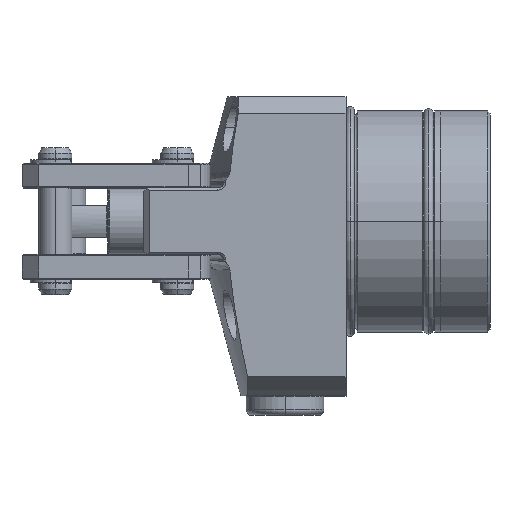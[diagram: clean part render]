
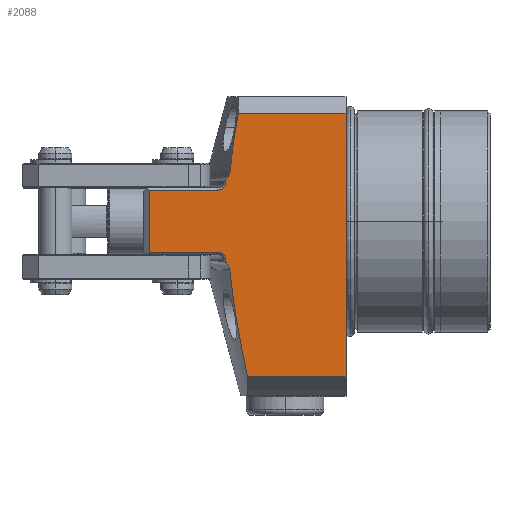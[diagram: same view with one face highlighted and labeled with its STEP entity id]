
A CAD part, top view. The second image highlights one B-rep face of the part: STEP entity #2088.
In plain terms, the highlighted planar face has unit normal (0, 0, 1).
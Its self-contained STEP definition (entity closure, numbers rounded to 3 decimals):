
#1366=B_SPLINE_CURVE_WITH_KNOTS('',3,(#10925,#10926,#10927,#10928,#10929,
#10930,#10931,#10932,#10933,#10934),.UNSPECIFIED.,.F.,.F.,(4,3,3,4),(0.,
0.418,0.837,1.),.UNSPECIFIED.);
#1367=B_SPLINE_CURVE_WITH_KNOTS('',3,(#10939,#10940,#10941,#10942,#10943,
#10944,#10945,#10946,#10947,#10948,#10949,#10950,#10951,#10952,#10953,#10954,
#10955,#10956),.UNSPECIFIED.,.F.,.F.,(4,2,2,2,2,2,2,2,4),(0.,0.125,0.25,
0.375,0.5,0.625,0.75,0.875,1.),.UNSPECIFIED.);
#1368=B_SPLINE_CURVE_WITH_KNOTS('',3,(#10961,#10962,#10963,#10964,#10965,
#10966,#10967,#10968,#10969,#10970,#10971,#10972,#10973,#10974,#10975,#10976,
#10977,#10978),.UNSPECIFIED.,.F.,.F.,(4,2,2,2,2,2,2,2,4),(0.,0.125,0.25,
0.375,0.5,0.625,0.75,0.875,1.),.UNSPECIFIED.);
#1369=B_SPLINE_CURVE_WITH_KNOTS('',3,(#10982,#10983,#10984,#10985,#10986,
#10987,#10988,#10989,#10990,#10991),.UNSPECIFIED.,.F.,.F.,(4,3,3,4),(0.,
0.41,0.819,1.),.UNSPECIFIED.);
#1370=B_SPLINE_CURVE_WITH_KNOTS('',3,(#10993,#10994,#10995,#10996),
 .UNSPECIFIED.,.F.,.F.,(4,4),(0.,1.),.UNSPECIFIED.);
#1371=B_SPLINE_CURVE_WITH_KNOTS('',3,(#11004,#11005,#11006,#11007),
 .UNSPECIFIED.,.F.,.F.,(4,4),(0.,1.),.UNSPECIFIED.);
#1788=PLANE('',#7421);
#2088=ADVANCED_FACE('',(#2534),#1788,.F.);
#2534=FACE_OUTER_BOUND('',#2895,.T.);
#2895=EDGE_LOOP('',(#4737,#4738,#4739,#4740,#4741,#4742,#4743,#4744,#4745,
#4746,#4747,#4748,#4749,#4750));
#3265=LINE('',#10912,#3562);
#3272=LINE('',#10937,#3569);
#3273=LINE('',#10958,#3570);
#3274=LINE('',#10959,#3571);
#3275=LINE('',#10980,#3572);
#3276=LINE('',#10998,#3573);
#3277=LINE('',#11000,#3574);
#3278=LINE('',#11002,#3575);
#3562=VECTOR('',#9077,1.);
#3569=VECTOR('',#9088,1.);
#3570=VECTOR('',#9089,1.);
#3571=VECTOR('',#9090,1.);
#3572=VECTOR('',#9091,1.);
#3573=VECTOR('',#9092,1.);
#3574=VECTOR('',#9093,1.);
#3575=VECTOR('',#9094,1.);
#4737=ORIENTED_EDGE('',*,*,#6247,.F.);
#4738=ORIENTED_EDGE('',*,*,#6248,.T.);
#4739=ORIENTED_EDGE('',*,*,#6249,.T.);
#4740=ORIENTED_EDGE('',*,*,#6250,.T.);
#4741=ORIENTED_EDGE('',*,*,#6240,.T.);
#4742=ORIENTED_EDGE('',*,*,#6251,.T.);
#4743=ORIENTED_EDGE('',*,*,#6252,.T.);
#4744=ORIENTED_EDGE('',*,*,#6253,.T.);
#4745=ORIENTED_EDGE('',*,*,#6254,.F.);
#4746=ORIENTED_EDGE('',*,*,#6255,.F.);
#4747=ORIENTED_EDGE('',*,*,#6256,.F.);
#4748=ORIENTED_EDGE('',*,*,#6257,.F.);
#4749=ORIENTED_EDGE('',*,*,#6258,.T.);
#4750=ORIENTED_EDGE('',*,*,#6259,.F.);
#5556=VERTEX_POINT('',#10911);
#5557=VERTEX_POINT('',#10913);
#5561=VERTEX_POINT('',#10935);
#5562=VERTEX_POINT('',#10936);
#5563=VERTEX_POINT('',#10938);
#5564=VERTEX_POINT('',#10957);
#5565=VERTEX_POINT('',#10960);
#5566=VERTEX_POINT('',#10979);
#5567=VERTEX_POINT('',#10981);
#5568=VERTEX_POINT('',#10992);
#5569=VERTEX_POINT('',#10997);
#5570=VERTEX_POINT('',#10999);
#5571=VERTEX_POINT('',#11001);
#5572=VERTEX_POINT('',#11003);
#6240=EDGE_CURVE('',#5557,#5556,#3265,.T.);
#6247=EDGE_CURVE('',#5561,#5562,#1366,.T.);
#6248=EDGE_CURVE('',#5561,#5563,#3272,.T.);
#6249=EDGE_CURVE('',#5563,#5564,#1367,.T.);
#6250=EDGE_CURVE('',#5564,#5557,#3273,.T.);
#6251=EDGE_CURVE('',#5556,#5565,#3274,.T.);
#6252=EDGE_CURVE('',#5565,#5566,#1368,.T.);
#6253=EDGE_CURVE('',#5566,#5567,#3275,.T.);
#6254=EDGE_CURVE('',#5568,#5567,#1369,.T.);
#6255=EDGE_CURVE('',#5569,#5568,#1370,.T.);
#6256=EDGE_CURVE('',#5570,#5569,#3276,.T.);
#6257=EDGE_CURVE('',#5571,#5570,#3277,.T.);
#6258=EDGE_CURVE('',#5571,#5572,#3278,.T.);
#6259=EDGE_CURVE('',#5562,#5572,#1371,.T.);
#7421=AXIS2_PLACEMENT_3D('',#11008,#9095,#9096);
#9077=DIRECTION('',(0.,-1.,0.));
#9088=DIRECTION('',(0.,-1.,0.));
#9089=DIRECTION('',(-1.,0.,0.));
#9090=DIRECTION('',(1.,0.,0.));
#9091=DIRECTION('',(0.,-1.,0.));
#9092=DIRECTION('',(-1.,0.,0.));
#9093=DIRECTION('',(0.,-1.,0.));
#9094=DIRECTION('',(-1.,0.,0.));
#9095=DIRECTION('',(0.,0.,-1.));
#9096=DIRECTION('',(0.,-1.,0.));
#10911=CARTESIAN_POINT('',(-35.5,-5.6,22.5));
#10912=CARTESIAN_POINT('',(-35.5,-7.,22.5));
#10913=CARTESIAN_POINT('',(-35.5,5.6,22.5));
#10925=CARTESIAN_POINT('',(-21.731,7.435,22.5));
#10926=CARTESIAN_POINT('',(-21.554,7.573,22.5));
#10927=CARTESIAN_POINT('',(-21.397,7.742,22.5));
#10928=CARTESIAN_POINT('',(-21.274,7.93,22.5));
#10929=CARTESIAN_POINT('',(-21.151,8.118,22.5));
#10930=CARTESIAN_POINT('',(-21.059,8.331,22.5));
#10931=CARTESIAN_POINT('',(-21.007,8.549,22.5));
#10932=CARTESIAN_POINT('',(-20.986,8.635,22.5));
#10933=CARTESIAN_POINT('',(-20.972,8.723,22.5));
#10934=CARTESIAN_POINT('',(-20.963,8.811,22.5));
#10935=CARTESIAN_POINT('',(-21.731,7.435,22.5));
#10936=CARTESIAN_POINT('',(-20.963,8.811,22.5));
#10937=CARTESIAN_POINT('',(-21.731,7.,22.5));
#10938=CARTESIAN_POINT('',(-21.731,7.,22.5));
#10939=CARTESIAN_POINT('',(-21.731,7.,22.5));
#10940=CARTESIAN_POINT('',(-21.731,6.908,22.5));
#10941=CARTESIAN_POINT('',(-21.741,6.817,22.5));
#10942=CARTESIAN_POINT('',(-21.778,6.637,22.5));
#10943=CARTESIAN_POINT('',(-21.805,6.549,22.5));
#10944=CARTESIAN_POINT('',(-21.878,6.38,22.5));
#10945=CARTESIAN_POINT('',(-21.923,6.298,22.5));
#10946=CARTESIAN_POINT('',(-22.028,6.146,22.5));
#10947=CARTESIAN_POINT('',(-22.089,6.075,22.5));
#10948=CARTESIAN_POINT('',(-22.223,5.945,22.5));
#10949=CARTESIAN_POINT('',(-22.297,5.887,22.5));
#10950=CARTESIAN_POINT('',(-22.454,5.785,22.5));
#10951=CARTESIAN_POINT('',(-22.538,5.742,22.5));
#10952=CARTESIAN_POINT('',(-22.714,5.672,22.5));
#10953=CARTESIAN_POINT('',(-22.805,5.645,22.5));
#10954=CARTESIAN_POINT('',(-22.991,5.609,22.5));
#10955=CARTESIAN_POINT('',(-23.086,5.6,22.5));
#10956=CARTESIAN_POINT('',(-23.181,5.6,22.5));
#10957=CARTESIAN_POINT('',(-23.181,5.6,22.5));
#10958=CARTESIAN_POINT('',(-35.5,5.6,22.5));
#10959=CARTESIAN_POINT('',(-23.074,-5.6,22.5));
#10960=CARTESIAN_POINT('',(-23.181,-5.6,22.5));
#10961=CARTESIAN_POINT('',(-23.181,-5.6,22.5));
#10962=CARTESIAN_POINT('',(-23.086,-5.6,22.5));
#10963=CARTESIAN_POINT('',(-22.991,-5.609,22.5));
#10964=CARTESIAN_POINT('',(-22.805,-5.645,22.5));
#10965=CARTESIAN_POINT('',(-22.714,-5.672,22.5));
#10966=CARTESIAN_POINT('',(-22.538,-5.742,22.5));
#10967=CARTESIAN_POINT('',(-22.454,-5.785,22.5));
#10968=CARTESIAN_POINT('',(-22.297,-5.887,22.5));
#10969=CARTESIAN_POINT('',(-22.223,-5.945,22.5));
#10970=CARTESIAN_POINT('',(-22.089,-6.075,22.5));
#10971=CARTESIAN_POINT('',(-22.028,-6.146,22.5));
#10972=CARTESIAN_POINT('',(-21.923,-6.298,22.5));
#10973=CARTESIAN_POINT('',(-21.878,-6.38,22.5));
#10974=CARTESIAN_POINT('',(-21.805,-6.549,22.5));
#10975=CARTESIAN_POINT('',(-21.778,-6.637,22.5));
#10976=CARTESIAN_POINT('',(-21.741,-6.817,22.5));
#10977=CARTESIAN_POINT('',(-21.731,-6.908,22.5));
#10978=CARTESIAN_POINT('',(-21.731,-7.,22.5));
#10979=CARTESIAN_POINT('',(-21.731,-7.,22.5));
#10980=CARTESIAN_POINT('',(-21.731,0.,22.5));
#10981=CARTESIAN_POINT('',(-21.731,-7.435,22.5));
#10982=CARTESIAN_POINT('',(-20.963,-8.811,22.5));
#10983=CARTESIAN_POINT('',(-20.985,-8.592,22.5));
#10984=CARTESIAN_POINT('',(-21.045,-8.374,22.5));
#10985=CARTESIAN_POINT('',(-21.138,-8.175,22.5));
#10986=CARTESIAN_POINT('',(-21.231,-7.976,22.5));
#10987=CARTESIAN_POINT('',(-21.359,-7.79,22.5));
#10988=CARTESIAN_POINT('',(-21.512,-7.632,22.5));
#10989=CARTESIAN_POINT('',(-21.58,-7.561,22.5));
#10990=CARTESIAN_POINT('',(-21.654,-7.495,22.5));
#10991=CARTESIAN_POINT('',(-21.731,-7.435,22.5));
#10992=CARTESIAN_POINT('',(-20.963,-8.811,22.5));
#10993=CARTESIAN_POINT('',(-17.792,-28.102,22.5));
#10994=CARTESIAN_POINT('',(-19.127,-21.718,22.5));
#10995=CARTESIAN_POINT('',(-20.328,-15.311,22.5));
#10996=CARTESIAN_POINT('',(-20.963,-8.811,22.5));
#10997=CARTESIAN_POINT('',(-17.792,-28.102,22.5));
#10998=CARTESIAN_POINT('',(23.001,-28.102,22.5));
#10999=CARTESIAN_POINT('',(0.,-28.102,22.5));
#11000=CARTESIAN_POINT('',(0.,0.,22.5));
#11001=CARTESIAN_POINT('',(0.,19.5,22.5));
#11002=CARTESIAN_POINT('',(23.001,19.5,22.5));
#11003=CARTESIAN_POINT('',(-19.46,19.5,22.5));
#11004=CARTESIAN_POINT('',(-20.963,8.811,22.5));
#11005=CARTESIAN_POINT('',(-20.613,12.395,22.5));
#11006=CARTESIAN_POINT('',(-20.082,15.954,22.5));
#11007=CARTESIAN_POINT('',(-19.46,19.5,22.5));
#11008=CARTESIAN_POINT('',(23.001,0.,22.5));
